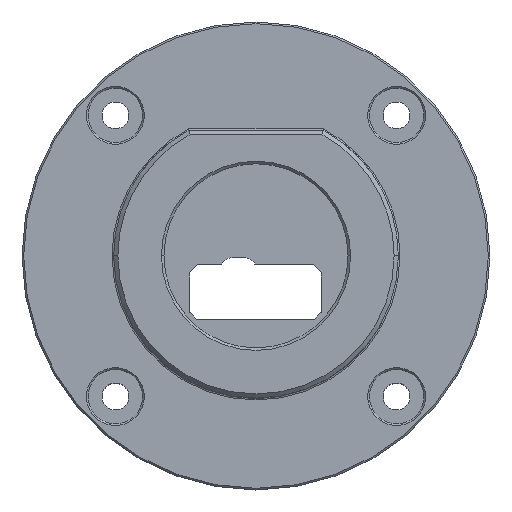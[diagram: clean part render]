
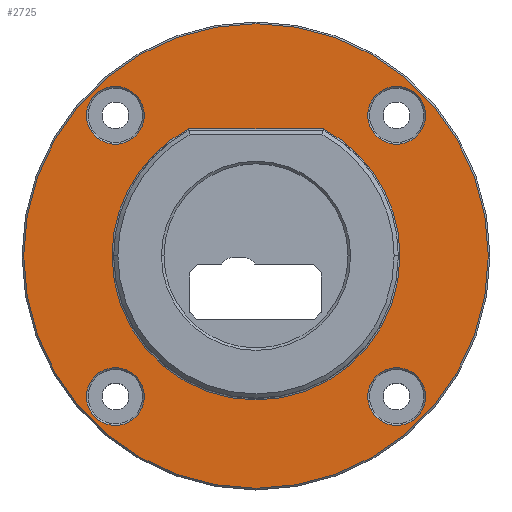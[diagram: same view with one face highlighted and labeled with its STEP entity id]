
A CAD part, top view. The second image highlights one B-rep face of the part: STEP entity #2725.
In plain terms, the highlighted planar face has unit normal (0, 0, 1).
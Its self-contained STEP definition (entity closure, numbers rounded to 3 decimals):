
#62 = DIRECTION ( 'NONE',  ( -1., 0., 0. ) ) ;
#99 = DIRECTION ( 'NONE',  ( 0., 0., -1. ) ) ;
#129 = DIRECTION ( 'NONE',  ( 0., 0., -1. ) ) ;
#216 = CIRCLE ( 'NONE', #2938, 3.45 ) ;
#257 = CIRCLE ( 'NONE', #1105, 17.2 ) ;
#279 = CARTESIAN_POINT ( 'NONE',  ( -16.794, -16.794, 0. ) ) ;
#338 = DIRECTION ( 'NONE',  ( 0., 0., -1. ) ) ;
#396 = EDGE_CURVE ( 'NONE', #6359, #2979, #2484, .T. ) ;
#411 = DIRECTION ( 'NONE',  ( -1., 0., 0. ) ) ;
#445 = CARTESIAN_POINT ( 'NONE',  ( 0., 0., 0. ) ) ;
#532 = FACE_OUTER_BOUND ( 'NONE', #2678, .T. ) ;
#599 = CARTESIAN_POINT ( 'NONE',  ( 20.244, 16.794, 0. ) ) ;
#687 = EDGE_CURVE ( 'NONE', #4477, #4280, #4441, .T. ) ;
#688 = VECTOR ( 'NONE', #4905, 1000. ) ;
#910 = VERTEX_POINT ( 'NONE', #2693 ) ;
#944 = EDGE_LOOP ( 'NONE', ( #3812, #3263 ) ) ;
#959 = PLANE ( 'NONE',  #2237 ) ;
#986 = AXIS2_PLACEMENT_3D ( 'NONE', #1076, #99, #3070 ) ;
#1076 = CARTESIAN_POINT ( 'NONE',  ( 16.794, -16.794, 0. ) ) ;
#1105 = AXIS2_PLACEMENT_3D ( 'NONE', #2311, #5233, #4684 ) ;
#1116 = CARTESIAN_POINT ( 'NONE',  ( 0., 0., 0. ) ) ;
#1132 = DIRECTION ( 'NONE',  ( 0., 0., -1. ) ) ;
#1332 = DIRECTION ( 'NONE',  ( 0., 0., -1. ) ) ;
#1349 = CARTESIAN_POINT ( 'NONE',  ( 8.05, 15.2, 0. ) ) ;
#1358 = CARTESIAN_POINT ( 'NONE',  ( 17.2, 0., 0. ) ) ;
#1427 = CIRCLE ( 'NONE', #4031, 27.75 ) ;
#1461 = EDGE_CURVE ( 'NONE', #5529, #5467, #6285, .T. ) ;
#1480 = AXIS2_PLACEMENT_3D ( 'NONE', #1941, #1332, #62 ) ;
#1485 = DIRECTION ( 'NONE',  ( -1., 0., 0. ) ) ;
#1649 = EDGE_CURVE ( 'NONE', #2124, #6167, #216, .T. ) ;
#1832 = CIRCLE ( 'NONE', #2574, 17.2 ) ;
#1871 = CARTESIAN_POINT ( 'NONE',  ( -16.794, 16.794, 0. ) ) ;
#1896 = CARTESIAN_POINT ( 'NONE',  ( 16.794, 16.794, 0. ) ) ;
#1941 = CARTESIAN_POINT ( 'NONE',  ( -16.794, -16.794, 0. ) ) ;
#1993 = VERTEX_POINT ( 'NONE', #1349 ) ;
#2010 = FACE_BOUND ( 'NONE', #2112, .T. ) ;
#2027 = DIRECTION ( 'NONE',  ( -1., 0., 0. ) ) ;
#2112 = EDGE_LOOP ( 'NONE', ( #6426, #4583 ) ) ;
#2118 = DIRECTION ( 'NONE',  ( -1., 0., 0. ) ) ;
#2124 = VERTEX_POINT ( 'NONE', #6016 ) ;
#2237 = AXIS2_PLACEMENT_3D ( 'NONE', #4986, #6477, #5047 ) ;
#2301 = DIRECTION ( 'NONE',  ( 0., 0., -1. ) ) ;
#2311 = CARTESIAN_POINT ( 'NONE',  ( 0., 0., 0. ) ) ;
#2332 = ORIENTED_EDGE ( 'NONE', *, *, #5161, .T. ) ;
#2362 = DIRECTION ( 'NONE',  ( -1., 0., 0. ) ) ;
#2481 = AXIS2_PLACEMENT_3D ( 'NONE', #1116, #3099, #2118 ) ;
#2484 = CIRCLE ( 'NONE', #6325, 3.45 ) ;
#2525 = EDGE_CURVE ( 'NONE', #2979, #6359, #4646, .T. ) ;
#2544 = CARTESIAN_POINT ( 'NONE',  ( 0., 0., 0. ) ) ;
#2574 = AXIS2_PLACEMENT_3D ( 'NONE', #445, #6457, #411 ) ;
#2576 = DIRECTION ( 'NONE',  ( -1., 0., 0. ) ) ;
#2578 = DIRECTION ( 'NONE',  ( -1., 0., 0. ) ) ;
#2678 = EDGE_LOOP ( 'NONE', ( #2332, #6027 ) ) ;
#2679 = CIRCLE ( 'NONE', #986, 3.45 ) ;
#2681 = CARTESIAN_POINT ( 'NONE',  ( 13.344, 16.794, 0. ) ) ;
#2693 = CARTESIAN_POINT ( 'NONE',  ( -8.05, 15.2, 0. ) ) ;
#2695 = CARTESIAN_POINT ( 'NONE',  ( 27.75, 0., 0. ) ) ;
#2725 = ADVANCED_FACE ( 'NONE', ( #2010, #6077, #4492, #6012, #3961, #532 ), #959, .F. ) ;
#2861 = CARTESIAN_POINT ( 'NONE',  ( 8., 15.2, 0. ) ) ;
#2938 = AXIS2_PLACEMENT_3D ( 'NONE', #6150, #1132, #3663 ) ;
#2979 = VERTEX_POINT ( 'NONE', #3030 ) ;
#3030 = CARTESIAN_POINT ( 'NONE',  ( -20.244, 16.794, 0. ) ) ;
#3045 = EDGE_CURVE ( 'NONE', #5408, #5546, #4653, .T. ) ;
#3070 = DIRECTION ( 'NONE',  ( -1., 0., 0. ) ) ;
#3099 = DIRECTION ( 'NONE',  ( 0., 0., -1. ) ) ;
#3263 = ORIENTED_EDGE ( 'NONE', *, *, #2525, .T. ) ;
#3327 = CARTESIAN_POINT ( 'NONE',  ( -27.75, 0., 0. ) ) ;
#3437 = ORIENTED_EDGE ( 'NONE', *, *, #4660, .T. ) ;
#3481 = VERTEX_POINT ( 'NONE', #4284 ) ;
#3483 = AXIS2_PLACEMENT_3D ( 'NONE', #2544, #5605, #2578 ) ;
#3517 = CIRCLE ( 'NONE', #6438, 3.45 ) ;
#3663 = DIRECTION ( 'NONE',  ( -1., 0., 0. ) ) ;
#3812 = ORIENTED_EDGE ( 'NONE', *, *, #396, .T. ) ;
#3874 = EDGE_CURVE ( 'NONE', #1993, #4141, #1832, .T. ) ;
#3961 = FACE_BOUND ( 'NONE', #5334, .T. ) ;
#4031 = AXIS2_PLACEMENT_3D ( 'NONE', #5410, #6281, #4425 ) ;
#4037 = DIRECTION ( 'NONE',  ( 0., 0., -1. ) ) ;
#4069 = EDGE_LOOP ( 'NONE', ( #5060, #3437 ) ) ;
#4071 = AXIS2_PLACEMENT_3D ( 'NONE', #279, #2301, #4297 ) ;
#4137 = AXIS2_PLACEMENT_3D ( 'NONE', #6060, #129, #2027 ) ;
#4141 = VERTEX_POINT ( 'NONE', #1358 ) ;
#4280 = VERTEX_POINT ( 'NONE', #2681 ) ;
#4284 = CARTESIAN_POINT ( 'NONE',  ( -17.2, 0., 0. ) ) ;
#4297 = DIRECTION ( 'NONE',  ( -1., 0., 0. ) ) ;
#4323 = CARTESIAN_POINT ( 'NONE',  ( -13.344, -16.794, 0. ) ) ;
#4386 = CARTESIAN_POINT ( 'NONE',  ( -20.244, -16.794, 0. ) ) ;
#4425 = DIRECTION ( 'NONE',  ( -1., 0., 0. ) ) ;
#4441 = CIRCLE ( 'NONE', #4137, 3.45 ) ;
#4477 = VERTEX_POINT ( 'NONE', #599 ) ;
#4492 = FACE_BOUND ( 'NONE', #944, .T. ) ;
#4521 = CARTESIAN_POINT ( 'NONE',  ( -13.344, 16.794, 0. ) ) ;
#4583 = ORIENTED_EDGE ( 'NONE', *, *, #4963, .T. ) ;
#4646 = CIRCLE ( 'NONE', #5869, 3.45 ) ;
#4653 = CIRCLE ( 'NONE', #3483, 27.75 ) ;
#4660 = EDGE_CURVE ( 'NONE', #4280, #4477, #3517, .T. ) ;
#4678 = CIRCLE ( 'NONE', #2481, 17.2 ) ;
#4684 = DIRECTION ( 'NONE',  ( -1., 0., 0. ) ) ;
#4793 = EDGE_CURVE ( 'NONE', #3481, #910, #257, .T. ) ;
#4905 = DIRECTION ( 'NONE',  ( 1., 0., 0. ) ) ;
#4963 = EDGE_CURVE ( 'NONE', #6167, #2124, #2679, .T. ) ;
#4971 = EDGE_CURVE ( 'NONE', #4141, #3481, #4678, .T. ) ;
#4986 = CARTESIAN_POINT ( 'NONE',  ( 0., 0., 0. ) ) ;
#5047 = DIRECTION ( 'NONE',  ( -1., 0., 0. ) ) ;
#5060 = ORIENTED_EDGE ( 'NONE', *, *, #687, .T. ) ;
#5161 = EDGE_CURVE ( 'NONE', #5546, #5408, #1427, .T. ) ;
#5199 = ORIENTED_EDGE ( 'NONE', *, *, #6299, .T. ) ;
#5233 = DIRECTION ( 'NONE',  ( 0., 0., -1. ) ) ;
#5262 = ORIENTED_EDGE ( 'NONE', *, *, #4971, .T. ) ;
#5310 = ORIENTED_EDGE ( 'NONE', *, *, #3874, .T. ) ;
#5318 = CIRCLE ( 'NONE', #4071, 3.45 ) ;
#5334 = EDGE_LOOP ( 'NONE', ( #5310, #5262, #5740, #6409 ) ) ;
#5348 = LINE ( 'NONE', #2861, #688 ) ;
#5408 = VERTEX_POINT ( 'NONE', #2695 ) ;
#5410 = CARTESIAN_POINT ( 'NONE',  ( 0., 0., 0. ) ) ;
#5467 = VERTEX_POINT ( 'NONE', #4323 ) ;
#5529 = VERTEX_POINT ( 'NONE', #4386 ) ;
#5546 = VERTEX_POINT ( 'NONE', #3327 ) ;
#5603 = CARTESIAN_POINT ( 'NONE',  ( -16.794, 16.794, 0. ) ) ;
#5605 = DIRECTION ( 'NONE',  ( 0., 0., 1. ) ) ;
#5740 = ORIENTED_EDGE ( 'NONE', *, *, #4793, .T. ) ;
#5837 = DIRECTION ( 'NONE',  ( 0., 0., -1. ) ) ;
#5869 = AXIS2_PLACEMENT_3D ( 'NONE', #5603, #4037, #2576 ) ;
#6012 = FACE_BOUND ( 'NONE', #4069, .T. ) ;
#6016 = CARTESIAN_POINT ( 'NONE',  ( 20.244, -16.794, 0. ) ) ;
#6027 = ORIENTED_EDGE ( 'NONE', *, *, #3045, .T. ) ;
#6058 = EDGE_CURVE ( 'NONE', #910, #1993, #5348, .T. ) ;
#6060 = CARTESIAN_POINT ( 'NONE',  ( 16.794, 16.794, 0. ) ) ;
#6077 = FACE_BOUND ( 'NONE', #6172, .T. ) ;
#6150 = CARTESIAN_POINT ( 'NONE',  ( 16.794, -16.794, 0. ) ) ;
#6167 = VERTEX_POINT ( 'NONE', #6217 ) ;
#6172 = EDGE_LOOP ( 'NONE', ( #5199, #6481 ) ) ;
#6217 = CARTESIAN_POINT ( 'NONE',  ( 13.344, -16.794, 0. ) ) ;
#6281 = DIRECTION ( 'NONE',  ( 0., 0., 1. ) ) ;
#6285 = CIRCLE ( 'NONE', #1480, 3.45 ) ;
#6299 = EDGE_CURVE ( 'NONE', #5467, #5529, #5318, .T. ) ;
#6325 = AXIS2_PLACEMENT_3D ( 'NONE', #1871, #338, #2362 ) ;
#6359 = VERTEX_POINT ( 'NONE', #4521 ) ;
#6409 = ORIENTED_EDGE ( 'NONE', *, *, #6058, .T. ) ;
#6426 = ORIENTED_EDGE ( 'NONE', *, *, #1649, .T. ) ;
#6438 = AXIS2_PLACEMENT_3D ( 'NONE', #1896, #5837, #1485 ) ;
#6457 = DIRECTION ( 'NONE',  ( 0., 0., -1. ) ) ;
#6477 = DIRECTION ( 'NONE',  ( 0., 0., -1. ) ) ;
#6481 = ORIENTED_EDGE ( 'NONE', *, *, #1461, .T. ) ;
